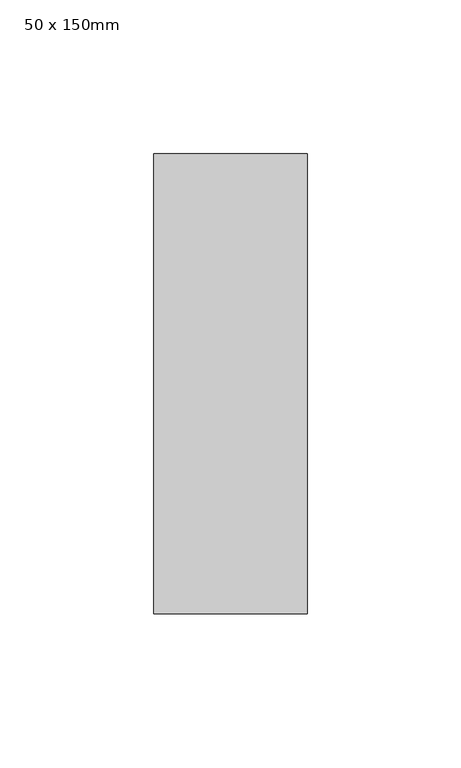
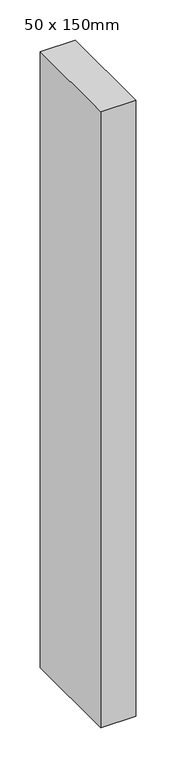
"""IFC4 building model written with IfcOpenShell, lengths in millimetres: member geometry, 矩形豎框 : 50 x 150mm."""

from ifc_helpers import new_model, si_unit, frame, origin, place, context, project, spatial, polyline, outline, extrude, source, transform, mapped, element, save


def member_50_x_150mm_bdf0faf1(model_context):
    return source(origin(), model_context, "Body", "SweptSolid", [
        extrude(outline(polyline([(0.0, 75.0), (0.0, -75.0), (-50.0, -75.0), (-50.0, 75.0), (0.0, 75.0)])), frame((0.0, 0.0, -933.1595946), z_axis=(0.0, 0.0, 1.0), x_axis=(1.0, 0.0, 0.0)), (0.0, 0.0, 1.0), 933.1595946),
    ])


if __name__ == "__main__":
    model = new_model("IFC4")
    model_context = context("Model", 3, world=origin())
    ifc_project = project(units=[si_unit("LENGTHUNIT", "METRE", prefix="MILLI")], contexts=[model_context])
    site = spatial("IfcSite", under=ifc_project)
    building = spatial("IfcBuilding", under=site)
    placement = place(None, origin())
    member_50_x_150mm_shape = member_50_x_150mm_bdf0faf1(model_context)
    element("IfcMember", 1, ObjectType="矩形豎框 : 50 x 150mm", at=placement, inside=building, context=model_context, shape_type="MappedRepresentation", body=[
        mapped(member_50_x_150mm_shape, transform((0.0, 0.0, 0.0), x_axis=(1.0, 0.0, 0.0), y_axis=(0.0, 1.0, 0.0), z_axis=(0.0, 0.0, 1.0))),
    ])
    save(model, "model.ifc")
